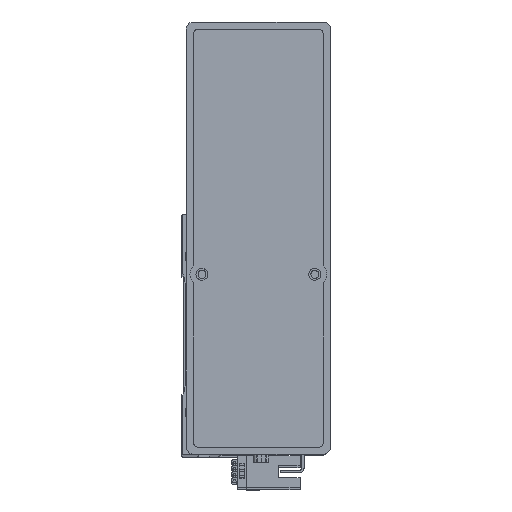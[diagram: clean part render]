
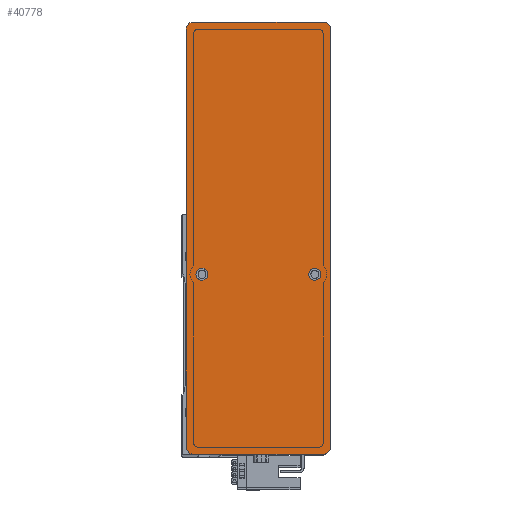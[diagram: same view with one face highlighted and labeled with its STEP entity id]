
A CAD part, top view. The second image highlights one B-rep face of the part: STEP entity #40778.
In plain terms, the highlighted planar face has unit normal (0, 0, 1) as drawn and (0, 0, -1) by its records, which use the part's own axes.
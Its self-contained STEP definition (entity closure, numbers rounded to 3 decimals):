
#147 = VERTEX_POINT ( 'NONE', #29132 ) ;
#1164 = DIRECTION ( 'NONE',  ( 0., 0., -1. ) ) ;
#1657 = FACE_BOUND ( 'NONE', #31014, .T. ) ;
#1761 = DIRECTION ( 'NONE',  ( 1., 0., 0. ) ) ;
#1823 = CIRCLE ( 'NONE', #35681, 3. ) ;
#1868 = CARTESIAN_POINT ( 'NONE',  ( -87., -30., 0. ) ) ;
#1869 = EDGE_CURVE ( 'NONE', #37465, #23999, #30303, .T. ) ;
#2425 = CARTESIAN_POINT ( 'NONE',  ( 90., -30., 0. ) ) ;
#3180 = DIRECTION ( 'NONE',  ( 0., 0., -1. ) ) ;
#3263 = CARTESIAN_POINT ( 'NONE',  ( -87., 30., 0. ) ) ;
#3264 = DIRECTION ( 'NONE',  ( -1., 0., 0. ) ) ;
#3319 = CARTESIAN_POINT ( 'NONE',  ( -15., 23.5, 0. ) ) ;
#3566 = VECTOR ( 'NONE', #34702, 1000. ) ;
#3585 = VERTEX_POINT ( 'NONE', #22956 ) ;
#3656 = CARTESIAN_POINT ( 'NONE',  ( 90., 30., 0. ) ) ;
#4100 = DIRECTION ( 'NONE',  ( 0., 0., -1. ) ) ;
#4268 = EDGE_CURVE ( 'NONE', #26381, #15025, #24147, .T. ) ;
#5054 = VECTOR ( 'NONE', #12145, 1000. ) ;
#5680 = ORIENTED_EDGE ( 'NONE', *, *, #9924, .F. ) ;
#5738 = DIRECTION ( 'NONE',  ( 0., 1., 0. ) ) ;
#6086 = CARTESIAN_POINT ( 'NONE',  ( -17.5, 23.5, 0. ) ) ;
#6225 = ORIENTED_EDGE ( 'NONE', *, *, #4268, .T. ) ;
#6624 = DIRECTION ( 'NONE',  ( -1., 0., 0. ) ) ;
#6739 = ORIENTED_EDGE ( 'NONE', *, *, #35641, .F. ) ;
#6943 = DIRECTION ( 'NONE',  ( -1., 0., 0. ) ) ;
#7455 = CARTESIAN_POINT ( 'NONE',  ( 0., 0., 0. ) ) ;
#9382 = FACE_BOUND ( 'NONE', #41774, .T. ) ;
#9886 = AXIS2_PLACEMENT_3D ( 'NONE', #41632, #21605, #1761 ) ;
#9924 = EDGE_CURVE ( 'NONE', #21184, #23999, #38975, .T. ) ;
#9995 = CARTESIAN_POINT ( 'NONE',  ( -15., -23.5, 0. ) ) ;
#11208 = DIRECTION ( 'NONE',  ( 0., 0., -1. ) ) ;
#11465 = AXIS2_PLACEMENT_3D ( 'NONE', #43166, #23126, #3264 ) ;
#12035 = ORIENTED_EDGE ( 'NONE', *, *, #15061, .T. ) ;
#12145 = DIRECTION ( 'NONE',  ( 0., -1., 0. ) ) ;
#12218 = VECTOR ( 'NONE', #5738, 1000. ) ;
#13333 = DIRECTION ( 'NONE',  ( -1., 0., 0. ) ) ;
#14159 = DIRECTION ( 'NONE',  ( 1., 0., 0. ) ) ;
#14746 = CARTESIAN_POINT ( 'NONE',  ( 90., -30., 0. ) ) ;
#14835 = ORIENTED_EDGE ( 'NONE', *, *, #28467, .F. ) ;
#15025 = VERTEX_POINT ( 'NONE', #17500 ) ;
#15061 = EDGE_CURVE ( 'NONE', #23215, #38258, #1823, .T. ) ;
#16143 = CIRCLE ( 'NONE', #38051, 2.5 ) ;
#17273 = CIRCLE ( 'NONE', #36403, 2.5 ) ;
#17500 = CARTESIAN_POINT ( 'NONE',  ( 90., 27., 0. ) ) ;
#17826 = CARTESIAN_POINT ( 'NONE',  ( 90., -27., 0. ) ) ;
#18086 = EDGE_CURVE ( 'NONE', #147, #23458, #18310, .T. ) ;
#18122 = EDGE_CURVE ( 'NONE', #23458, #147, #17273, .T. ) ;
#18310 = CIRCLE ( 'NONE', #31897, 2.5 ) ;
#19485 = VERTEX_POINT ( 'NONE', #27991 ) ;
#19597 = ORIENTED_EDGE ( 'NONE', *, *, #29011, .F. ) ;
#20963 = CARTESIAN_POINT ( 'NONE',  ( -87., 27., 0. ) ) ;
#21093 = LINE ( 'NONE', #2425, #12218 ) ;
#21184 = VERTEX_POINT ( 'NONE', #1868 ) ;
#21445 = CIRCLE ( 'NONE', #11465, 2.5 ) ;
#21605 = DIRECTION ( 'NONE',  ( 0., 0., -1. ) ) ;
#22956 = CARTESIAN_POINT ( 'NONE',  ( -17.5, -23.5, 0. ) ) ;
#23045 = CARTESIAN_POINT ( 'NONE',  ( -15., 23.5, 0. ) ) ;
#23126 = DIRECTION ( 'NONE',  ( 0., 0., -1. ) ) ;
#23215 = VERTEX_POINT ( 'NONE', #24418 ) ;
#23458 = VERTEX_POINT ( 'NONE', #6086 ) ;
#23803 = AXIS2_PLACEMENT_3D ( 'NONE', #7455, #27112, #14159 ) ;
#23944 = CARTESIAN_POINT ( 'NONE',  ( 87., 27., 0. ) ) ;
#23999 = VERTEX_POINT ( 'NONE', #26974 ) ;
#24147 = CIRCLE ( 'NONE', #41570, 3. ) ;
#24326 = DIRECTION ( 'NONE',  ( 1., 0., 0. ) ) ;
#24418 = CARTESIAN_POINT ( 'NONE',  ( -90., 27., 0. ) ) ;
#24852 = CARTESIAN_POINT ( 'NONE',  ( -90., -27., 0. ) ) ;
#24875 = VECTOR ( 'NONE', #6943, 1000. ) ;
#25153 = CIRCLE ( 'NONE', #36340, 3. ) ;
#25307 = CARTESIAN_POINT ( 'NONE',  ( 87., 30., 0. ) ) ;
#25804 = ORIENTED_EDGE ( 'NONE', *, *, #1869, .T. ) ;
#26381 = VERTEX_POINT ( 'NONE', #25307 ) ;
#26392 = DIRECTION ( 'NONE',  ( -1., 0., 0. ) ) ;
#26531 = DIRECTION ( 'NONE',  ( 0., 0., -1. ) ) ;
#26974 = CARTESIAN_POINT ( 'NONE',  ( 87., -30., 0. ) ) ;
#27112 = DIRECTION ( 'NONE',  ( 0., 0., 1. ) ) ;
#27296 = DIRECTION ( 'NONE',  ( 1., 0., 0. ) ) ;
#27991 = CARTESIAN_POINT ( 'NONE',  ( -12.5, -23.5, 0. ) ) ;
#28467 = EDGE_CURVE ( 'NONE', #3585, #19485, #21445, .T. ) ;
#28856 = ORIENTED_EDGE ( 'NONE', *, *, #18122, .F. ) ;
#28984 = ORIENTED_EDGE ( 'NONE', *, *, #39658, .T. ) ;
#29011 = EDGE_CURVE ( 'NONE', #19485, #3585, #16143, .T. ) ;
#29132 = CARTESIAN_POINT ( 'NONE',  ( -12.5, 23.5, 0. ) ) ;
#29565 = VERTEX_POINT ( 'NONE', #24852 ) ;
#30303 = CIRCLE ( 'NONE', #9886, 3. ) ;
#31014 = EDGE_LOOP ( 'NONE', ( #28856, #32522 ) ) ;
#31191 = CARTESIAN_POINT ( 'NONE',  ( -87., -27., 0. ) ) ;
#31897 = AXIS2_PLACEMENT_3D ( 'NONE', #23045, #3180, #26392 ) ;
#32522 = ORIENTED_EDGE ( 'NONE', *, *, #18086, .F. ) ;
#33273 = DIRECTION ( 'NONE',  ( 0., 0., -1. ) ) ;
#33435 = EDGE_CURVE ( 'NONE', #23215, #29565, #40499, .T. ) ;
#33749 = LINE ( 'NONE', #3656, #24875 ) ;
#34072 = PLANE ( 'NONE',  #23803 ) ;
#34517 = DIRECTION ( 'NONE',  ( 1., 0., 0. ) ) ;
#34702 = DIRECTION ( 'NONE',  ( 1., 0., 0. ) ) ;
#34863 = EDGE_CURVE ( 'NONE', #26381, #38258, #33749, .T. ) ;
#35232 = ORIENTED_EDGE ( 'NONE', *, *, #33435, .F. ) ;
#35641 = EDGE_CURVE ( 'NONE', #37465, #15025, #21093, .T. ) ;
#35681 = AXIS2_PLACEMENT_3D ( 'NONE', #20963, #1164, #24326 ) ;
#35944 = FACE_OUTER_BOUND ( 'NONE', #36365, .T. ) ;
#36340 = AXIS2_PLACEMENT_3D ( 'NONE', #31191, #11208, #34517 ) ;
#36365 = EDGE_LOOP ( 'NONE', ( #6739, #25804, #5680, #28984, #35232, #12035, #39952, #6225 ) ) ;
#36403 = AXIS2_PLACEMENT_3D ( 'NONE', #3319, #26531, #6624 ) ;
#37465 = VERTEX_POINT ( 'NONE', #17826 ) ;
#38051 = AXIS2_PLACEMENT_3D ( 'NONE', #9995, #33273, #13333 ) ;
#38258 = VERTEX_POINT ( 'NONE', #3263 ) ;
#38975 = LINE ( 'NONE', #14746, #3566 ) ;
#39658 = EDGE_CURVE ( 'NONE', #21184, #29565, #25153, .T. ) ;
#39952 = ORIENTED_EDGE ( 'NONE', *, *, #34863, .F. ) ;
#40499 = LINE ( 'NONE', #42227, #5054 ) ;
#40778 = ADVANCED_FACE ( 'NONE', ( #1657, #9382, #35944 ), #34072, .F. ) ;
#41570 = AXIS2_PLACEMENT_3D ( 'NONE', #23944, #4100, #27296 ) ;
#41632 = CARTESIAN_POINT ( 'NONE',  ( 87., -27., 0. ) ) ;
#41774 = EDGE_LOOP ( 'NONE', ( #14835, #19597 ) ) ;
#42227 = CARTESIAN_POINT ( 'NONE',  ( -90., -30., 0. ) ) ;
#43166 = CARTESIAN_POINT ( 'NONE',  ( -15., -23.5, 0. ) ) ;
